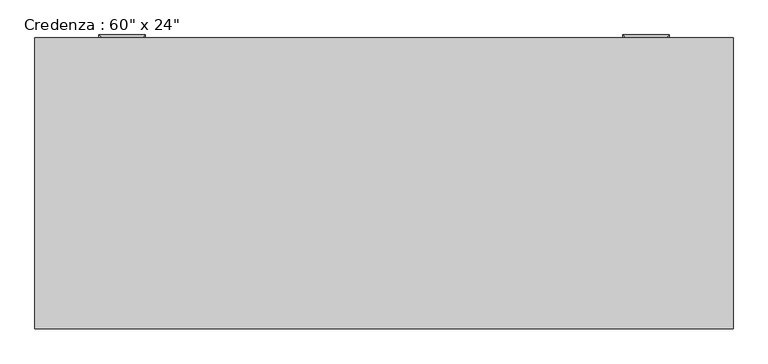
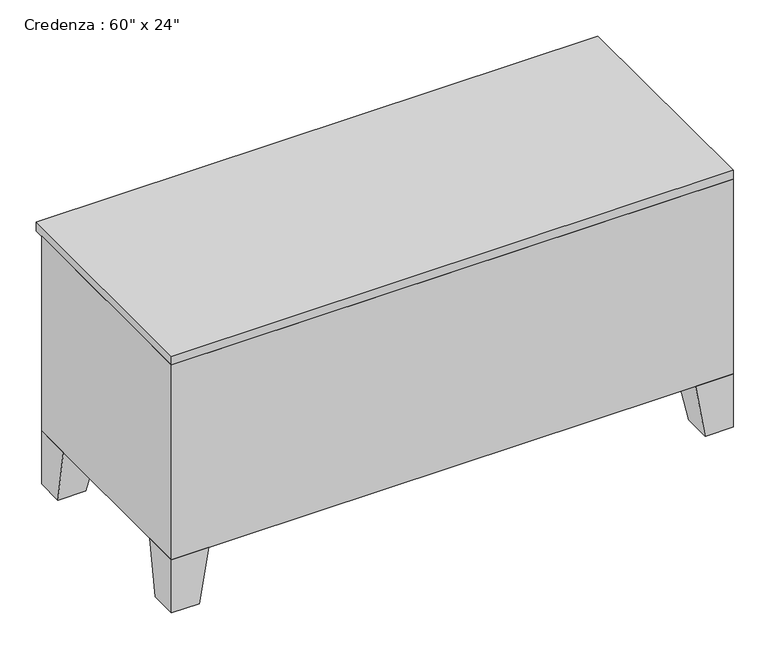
"""IFC4 building model written with IfcOpenShell, lengths in millimetres: furniture geometry."""

from ifc_helpers import new_model, si_unit, frame, origin, place, context, project, spatial, polyline, outline, extrude, faceted_brep, source, transform, mapped, element, save


def furniture_a9e97cbc(model_context):
    return source(origin(), model_context, "Body", "SolidModel", [
        extrude(outline(polyline([(455.5023176, 267.2714583), (455.5023176, 254.5714583), (46.8442623, 254.5714583), (46.8442623, 267.2714583), (455.5023176, 267.2714583)])), frame((0.0, 0.0, 171.45), z_axis=(0.0, 0.0, 1.0), x_axis=(1.0, 0.0, 0.0)), (0.0, 0.0, 1.0), 520.7),
        extrude(outline(polyline([(73.6254475, 279.9714583), (73.6254475, 267.2714583), (-302.4057377, 267.2714583), (-302.4057377, 279.9714583), (73.6254475, 279.9714583)])), frame((0.0, 0.0, 171.45), z_axis=(0.0, 0.0, 1.0), x_axis=(1.0, 0.0, 0.0)), (0.0, 0.0, 1.0), 520.7),
        faceted_brep([(719.9442623, -309.3803279, 152.4), (821.5442623, -309.3803279, 152.4), (821.5442623, -207.7803279, 152.4), (719.9442623, -207.7803279, 152.4), (745.3442623, -309.3803279, 0.0), (745.3442623, -233.1803279, 0.0), (821.5442623, -233.1803279, 0.0), (821.5442623, -309.3803279, 0.0)], [[[0, 1, 2, 3]], [[4, 5, 6, 7]], [[4, 0, 3, 5]], [[5, 3, 2, 6]], [[6, 2, 1, 7]], [[7, 1, 0, 4]]]),
        extrude(outline(polyline([(802.4942623, 306.5696721), (802.4942623, 300.2196721), (440.5442623, 300.2196721), (440.5442623, 306.5696721), (802.4942623, 306.5696721)])), frame((0.0, 0.0, 584.2), z_axis=(0.0, 0.0, 1.0), x_axis=(1.0, 0.0, 0.0)), (0.0, 0.0, 1.0), 107.95),
        extrude(outline(polyline([(802.4942623, 306.5696721), (802.4942623, 300.2196721), (440.5442623, 300.2196721), (440.5442623, 306.5696721), (802.4942623, 306.5696721)])), frame((0.0, 0.0, 171.45), z_axis=(0.0, 0.0, 1.0), x_axis=(1.0, 0.0, 0.0)), (0.0, 0.0, 1.0), 393.7),
        extrude(outline(polyline([(-321.4557377, 306.5696721), (-321.4557377, 300.2196721), (-683.4057377, 300.2196721), (-683.4057377, 306.5696721), (-321.4557377, 306.5696721)])), frame((0.0, 0.0, 584.2), z_axis=(0.0, 0.0, 1.0), x_axis=(1.0, 0.0, 0.0)), (0.0, 0.0, 1.0), 107.95),
        extrude(outline(polyline([(-321.4557377, 306.5696721), (-321.4557377, 300.2196721), (-683.4057377, 300.2196721), (-683.4057377, 306.5696721), (-321.4557377, 306.5696721)])), frame((0.0, 0.0, 171.45), z_axis=(0.0, 0.0, 1.0), x_axis=(1.0, 0.0, 0.0)), (0.0, 0.0, 1.0), 393.7),
        faceted_brep([(-600.8557377, 300.2196721, 152.4), (-702.4557377, 300.2196721, 152.4), (-702.4557377, 198.6196721, 152.4), (-600.8557377, 198.6196721, 152.4), (-626.2557377, 300.2196721, 0.0), (-626.2557377, 224.0196721, 0.0), (-702.4557377, 224.0196721, 0.0), (-702.4557377, 300.2196721, 0.0)], [[[0, 1, 2, 3]], [[4, 5, 6, 7]], [[4, 0, 3, 5]], [[5, 3, 2, 6]], [[6, 2, 1, 7]], [[7, 1, 0, 4]]]),
        faceted_brep([(-600.8557377, -309.3803279, 152.4), (-600.8557377, -207.7803279, 152.4), (-702.4557377, -207.7803279, 152.4), (-702.4557377, -309.3803279, 152.4), (-626.2557377, -309.3803279, 0.0), (-702.4557377, -309.3803279, 0.0), (-702.4557377, -233.1803279, 0.0), (-626.2557377, -233.1803279, 0.0)], [[[0, 1, 2, 3]], [[4, 5, 6, 7]], [[4, 0, 3, 5]], [[5, 3, 2, 6]], [[6, 2, 1, 7]], [[7, 1, 0, 4]]]),
        faceted_brep([(719.9442623, 300.2196721, 152.4), (719.9442623, 198.6196721, 152.4), (821.5442623, 198.6196721, 152.4), (821.5442623, 300.2196721, 152.4), (745.3442623, 300.2196721, 0.0), (821.5442623, 300.2196721, 0.0), (821.5442623, 224.0196721, 0.0), (745.3442623, 224.0196721, 0.0)], [[[0, 1, 2, 3]], [[4, 5, 6, 7]], [[4, 0, 3, 5]], [[5, 3, 2, 6]], [[6, 2, 1, 7]], [[7, 1, 0, 4]]]),
        faceted_brep([(821.5442623, -309.3803279, 711.2), (821.5442623, 300.2196721, 711.2), (-702.4557377, 300.2196721, 711.2), (-702.4557377, -309.3803279, 711.2), (821.5442623, -309.3803279, 152.4), (-702.4557377, -309.3803279, 152.4), (-702.4557377, 300.2196721, 152.4), (821.5442623, 300.2196721, 152.4), (-302.4057377, 300.2196721, 692.15), (-302.4057377, 300.2196721, 171.45), (421.4942623, 300.2196721, 171.45), (421.4942623, 300.2196721, 692.15), (421.4942623, -290.3303279, 692.15), (421.4942623, -290.3303279, 171.45), (-302.4057377, -290.3303279, 171.45), (-302.4057377, -290.3303279, 692.15)], [[[0, 1, 2, 3]], [[4, 5, 6, 7]], [[3, 5, 4, 0]], [[2, 6, 5, 3]], [[1, 7, 6, 2], [8, 9, 10, 11]], [[0, 4, 7, 1]], [[12, 13, 14, 15]], [[15, 8, 11, 12]], [[14, 9, 8, 15]], [[13, 10, 9, 14]], [[12, 11, 10, 13]]]),
        extrude(outline(polyline([(821.5442623, -309.3803279), (-702.4557377, -309.3803279), (-702.4557377, 325.6196721), (821.5442623, 325.6196721), (821.5442623, -309.3803279)])), frame((0.0, 0.0, 711.2), z_axis=(0.0, 0.0, 1.0), x_axis=(1.0, 0.0, 0.0)), (0.0, 0.0, 1.0), 25.4),
        faceted_brep([(-556.4057377, 306.5696721, 527.05), (-562.7557377, 306.5696721, 527.05), (-562.7557377, 306.5696721, 514.35), (-556.4057377, 306.5696721, 514.35), (-556.4057377, 325.6196721, 514.35), (-556.4057377, 325.6196721, 527.05), (-562.7557377, 331.9696721, 514.35), (-562.7557377, 331.9696721, 527.05), (-467.5057377, 325.6196721, 514.35), (-467.5057377, 325.6196721, 527.05), (-461.1557377, 331.9696721, 514.35), (-461.1557377, 331.9696721, 527.05), (-467.5057377, 306.5696721, 527.05), (-467.5057377, 306.5696721, 514.35), (-461.1557377, 306.5696721, 514.35), (-461.1557377, 306.5696721, 527.05)], [[[0, 1, 2, 3]], [[3, 4, 5, 0]], [[2, 6, 4, 3]], [[1, 7, 6, 2]], [[0, 5, 7, 1]], [[4, 8, 9, 5]], [[6, 10, 8, 4]], [[7, 11, 10, 6]], [[5, 9, 11, 7]], [[12, 13, 14, 15]], [[8, 13, 12, 9]], [[10, 14, 13, 8]], [[11, 15, 14, 10]], [[9, 12, 15, 11]]]),
        faceted_brep([(-556.4057377, 306.5696721, 654.05), (-562.7557377, 306.5696721, 654.05), (-562.7557377, 306.5696721, 641.35), (-556.4057377, 306.5696721, 641.35), (-556.4057377, 325.6196721, 641.35), (-556.4057377, 325.6196721, 654.05), (-562.7557377, 331.9696721, 641.35), (-562.7557377, 331.9696721, 654.05), (-467.5057377, 325.6196721, 641.35), (-467.5057377, 325.6196721, 654.05), (-461.1557377, 331.9696721, 641.35), (-461.1557377, 331.9696721, 654.05), (-467.5057377, 306.5696721, 654.05), (-467.5057377, 306.5696721, 641.35), (-461.1557377, 306.5696721, 641.35), (-461.1557377, 306.5696721, 654.05)], [[[0, 1, 2, 3]], [[3, 4, 5, 0]], [[2, 6, 4, 3]], [[1, 7, 6, 2]], [[0, 5, 7, 1]], [[4, 8, 9, 5]], [[6, 10, 8, 4]], [[7, 11, 10, 6]], [[5, 9, 11, 7]], [[12, 13, 14, 15]], [[8, 13, 12, 9]], [[10, 14, 13, 8]], [[11, 15, 14, 10]], [[9, 12, 15, 11]]]),
        faceted_brep([(586.5942623, 306.5696721, 654.1373112), (580.2442623, 306.5696721, 654.1373112), (580.2442623, 306.5696721, 641.4373112), (586.5942623, 306.5696721, 641.4373112), (586.5942623, 325.6196721, 641.4373112), (586.5942623, 325.6196721, 654.1373112), (580.2442623, 331.9696721, 641.4373112), (580.2442623, 331.9696721, 654.1373112), (675.4942623, 325.6196721, 641.4373112), (675.4942623, 325.6196721, 654.1373112), (681.8442623, 331.9696721, 641.4373112), (681.8442623, 331.9696721, 654.1373112), (675.4942623, 306.5696721, 654.1373112), (675.4942623, 306.5696721, 641.4373112), (681.8442623, 306.5696721, 641.4373112), (681.8442623, 306.5696721, 654.1373112)], [[[0, 1, 2, 3]], [[3, 4, 5, 0]], [[2, 6, 4, 3]], [[1, 7, 6, 2]], [[0, 5, 7, 1]], [[4, 8, 9, 5]], [[6, 10, 8, 4]], [[7, 11, 10, 6]], [[5, 9, 11, 7]], [[12, 13, 14, 15]], [[8, 13, 12, 9]], [[10, 14, 13, 8]], [[11, 15, 14, 10]], [[9, 12, 15, 11]]]),
        faceted_brep([(586.5942623, 306.5696721, 527.05), (580.2442623, 306.5696721, 527.05), (580.2442623, 306.5696721, 514.35), (586.5942623, 306.5696721, 514.35), (586.5942623, 325.6196721, 514.35), (586.5942623, 325.6196721, 527.05), (580.2442623, 331.9696721, 514.35), (580.2442623, 331.9696721, 527.05), (675.4942623, 325.6196721, 514.35), (675.4942623, 325.6196721, 527.05), (681.8442623, 331.9696721, 514.35), (681.8442623, 331.9696721, 527.05), (675.4942623, 306.5696721, 527.05), (675.4942623, 306.5696721, 514.35), (681.8442623, 306.5696721, 514.35), (681.8442623, 306.5696721, 527.05)], [[[0, 1, 2, 3]], [[3, 4, 5, 0]], [[2, 6, 4, 3]], [[1, 7, 6, 2]], [[0, 5, 7, 1]], [[4, 8, 9, 5]], [[6, 10, 8, 4]], [[7, 11, 10, 6]], [[5, 9, 11, 7]], [[12, 13, 14, 15]], [[8, 13, 12, 9]], [[10, 14, 13, 8]], [[11, 15, 14, 10]], [[9, 12, 15, 11]]]),
    ])


if __name__ == "__main__":
    model = new_model("IFC4")
    model_context = context("Model", 3, world=origin())
    ifc_project = project(units=[si_unit("LENGTHUNIT", "METRE", prefix="MILLI")], contexts=[model_context])
    site = spatial("IfcSite", under=ifc_project)
    building = spatial("IfcBuilding", under=site)
    placement = place(None, origin())
    furniture_shape = furniture_a9e97cbc(model_context)
    element("IfcFurniture", 1, ObjectType="Credenza : 60\" x 24\"", at=placement, inside=building, context=model_context, shape_type="MappedRepresentation", body=[
        mapped(furniture_shape, transform((0.0, 0.0, 0.0), x_axis=(1.0, 0.0, 0.0), y_axis=(0.0, 1.0, 0.0), z_axis=(0.0, 0.0, 1.0))),
    ])
    save(model, "model.ifc")
